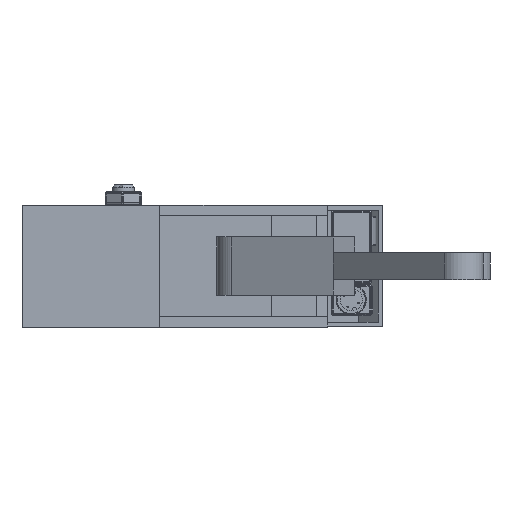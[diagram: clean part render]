
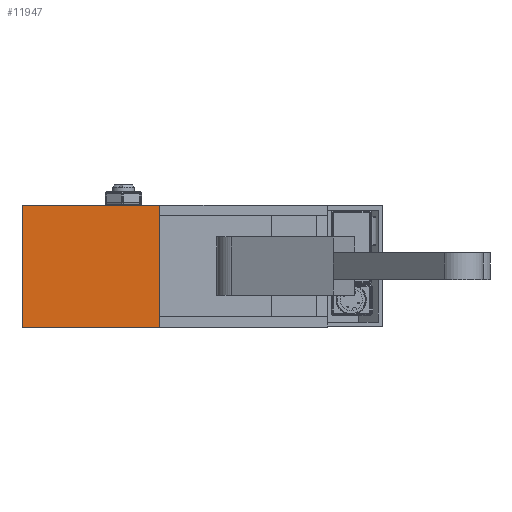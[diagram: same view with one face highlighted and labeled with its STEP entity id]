
A CAD part, front view. The second image highlights one B-rep face of the part: STEP entity #11947.
In plain terms, the highlighted planar face has unit normal (0, -1, 0).
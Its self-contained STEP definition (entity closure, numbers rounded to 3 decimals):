
#11332=CARTESIAN_POINT('',(26.059,-30.939,27.25));
#11333=VERTEX_POINT('',#11332);
#11340=CARTESIAN_POINT('',(26.059,-30.939,-27.25));
#11341=VERTEX_POINT('',#11340);
#11342=CARTESIAN_POINT('',(26.059,-30.939,-27.25));
#11343=DIRECTION('',(0.0,0.0,1.0));
#11344=VECTOR('',#11343,54.5);
#11345=LINE('',#11342,#11344);
#11346=EDGE_CURVE('',#11341,#11333,#11345,.T.);
#11917=CARTESIAN_POINT('',(-41.741,-30.939,29.975));
#11918=DIRECTION('',(0.0,-1.0,0.0));
#11919=DIRECTION('',(0.0,0.0,-1.0));
#11920=AXIS2_PLACEMENT_3D('',#11917,#11918,#11919);
#11921=PLANE('',#11920);
#11922=ORIENTED_EDGE('',*,*,#11346,.T.);
#11923=CARTESIAN_POINT('',(-35.441,-30.939,27.25));
#11924=VERTEX_POINT('',#11923);
#11925=CARTESIAN_POINT('',(26.059,-30.939,27.25));
#11926=DIRECTION('',(-1.0,0.0,0.0));
#11927=VECTOR('',#11926,61.5);
#11928=LINE('',#11925,#11927);
#11929=EDGE_CURVE('',#11333,#11924,#11928,.T.);
#11930=ORIENTED_EDGE('',*,*,#11929,.T.);
#11931=CARTESIAN_POINT('',(-35.441,-30.939,-27.25));
#11932=VERTEX_POINT('',#11931);
#11933=CARTESIAN_POINT('',(-35.441,-30.939,-27.25));
#11934=DIRECTION('',(0.0,0.0,1.0));
#11935=VECTOR('',#11934,54.5);
#11936=LINE('',#11933,#11935);
#11937=EDGE_CURVE('',#11932,#11924,#11936,.T.);
#11938=ORIENTED_EDGE('',*,*,#11937,.F.);
#11939=CARTESIAN_POINT('',(26.059,-30.939,-27.25));
#11940=DIRECTION('',(-1.0,0.0,0.0));
#11941=VECTOR('',#11940,61.5);
#11942=LINE('',#11939,#11941);
#11943=EDGE_CURVE('',#11341,#11932,#11942,.T.);
#11944=ORIENTED_EDGE('',*,*,#11943,.F.);
#11945=EDGE_LOOP('',(#11922,#11930,#11938,#11944));
#11946=FACE_OUTER_BOUND('',#11945,.T.);
#11947=ADVANCED_FACE('',(#11946),#11921,.T.);
